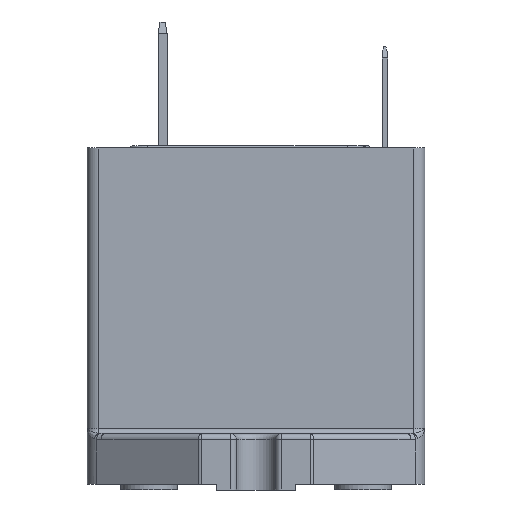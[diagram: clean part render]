
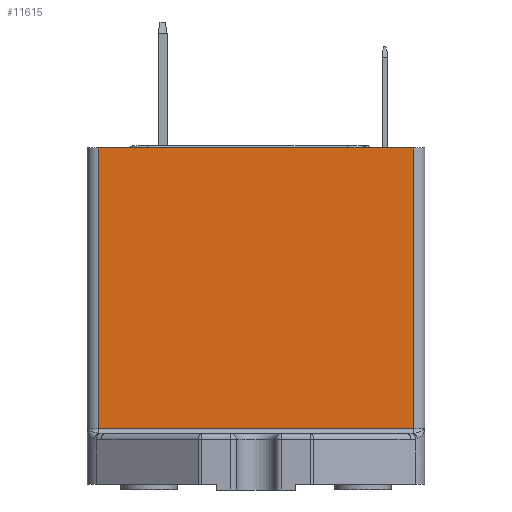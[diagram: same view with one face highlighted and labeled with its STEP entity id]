
A CAD part, left-side view. The second image highlights one B-rep face of the part: STEP entity #11615.
In plain terms, the highlighted planar face has unit normal (-1, 0, 0).
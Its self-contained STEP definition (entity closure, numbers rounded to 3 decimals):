
#650 = DIRECTION ( 'NONE',  ( 1., 0., 0. ) ) ;
#1752 = EDGE_CURVE ( 'NONE', #5098, #12019, #35369, .T. ) ;
#3186 = DIRECTION ( 'NONE',  ( 0., 0., 1. ) ) ;
#4019 = CARTESIAN_POINT ( 'NONE',  ( -92.542, 20.758, -25.35 ) ) ;
#5098 = VERTEX_POINT ( 'NONE', #11599 ) ;
#6642 = DIRECTION ( 'NONE',  ( 0., -1., 0. ) ) ;
#7215 = CARTESIAN_POINT ( 'NONE',  ( -92.542, 48.758, -0.45 ) ) ;
#7607 = ORIENTED_EDGE ( 'NONE', *, *, #24167, .F. ) ;
#7981 = LINE ( 'NONE', #30268, #35945 ) ;
#8580 = CARTESIAN_POINT ( 'NONE',  ( -92.542, 48.758, -25.35 ) ) ;
#8609 = EDGE_CURVE ( 'NONE', #24383, #13789, #7981, .T. ) ;
#11476 = CARTESIAN_POINT ( 'NONE',  ( -92.542, 20.758, -0.45 ) ) ;
#11599 = CARTESIAN_POINT ( 'NONE',  ( -92.542, 20.758, -25.35 ) ) ;
#11615 = ADVANCED_FACE ( 'NONE', ( #17326 ), #17514, .F. ) ;
#11883 = DIRECTION ( 'NONE',  ( 0., 0., -1. ) ) ;
#12019 = VERTEX_POINT ( 'NONE', #11476 ) ;
#12085 = ORIENTED_EDGE ( 'NONE', *, *, #1752, .T. ) ;
#13789 = VERTEX_POINT ( 'NONE', #8580 ) ;
#13914 = EDGE_LOOP ( 'NONE', ( #26790, #32042, #12085, #7607 ) ) ;
#16498 = AXIS2_PLACEMENT_3D ( 'NONE', #23502, #650, #11883 ) ;
#16877 = VECTOR ( 'NONE', #6642, 1000. ) ;
#17326 = FACE_OUTER_BOUND ( 'NONE', #13914, .T. ) ;
#17514 = PLANE ( 'NONE',  #16498 ) ;
#18589 = VECTOR ( 'NONE', #3186, 1000. ) ;
#19408 = DIRECTION ( 'NONE',  ( 0., 0., -1. ) ) ;
#20173 = LINE ( 'NONE', #25787, #29592 ) ;
#23502 = CARTESIAN_POINT ( 'NONE',  ( -92.542, 49.758, -0.45 ) ) ;
#24167 = EDGE_CURVE ( 'NONE', #24383, #12019, #20173, .T. ) ;
#24383 = VERTEX_POINT ( 'NONE', #7215 ) ;
#25787 = CARTESIAN_POINT ( 'NONE',  ( -92.542, 34.758, -0.45 ) ) ;
#26583 = CARTESIAN_POINT ( 'NONE',  ( -92.542, 20.758, -0.45 ) ) ;
#26790 = ORIENTED_EDGE ( 'NONE', *, *, #8609, .T. ) ;
#29592 = VECTOR ( 'NONE', #31781, 1000. ) ;
#29666 = EDGE_CURVE ( 'NONE', #13789, #5098, #30213, .T. ) ;
#30213 = LINE ( 'NONE', #4019, #16877 ) ;
#30268 = CARTESIAN_POINT ( 'NONE',  ( -92.542, 48.758, -0.45 ) ) ;
#31781 = DIRECTION ( 'NONE',  ( 0., -1., 0. ) ) ;
#32042 = ORIENTED_EDGE ( 'NONE', *, *, #29666, .T. ) ;
#35369 = LINE ( 'NONE', #26583, #18589 ) ;
#35945 = VECTOR ( 'NONE', #19408, 1000. ) ;
